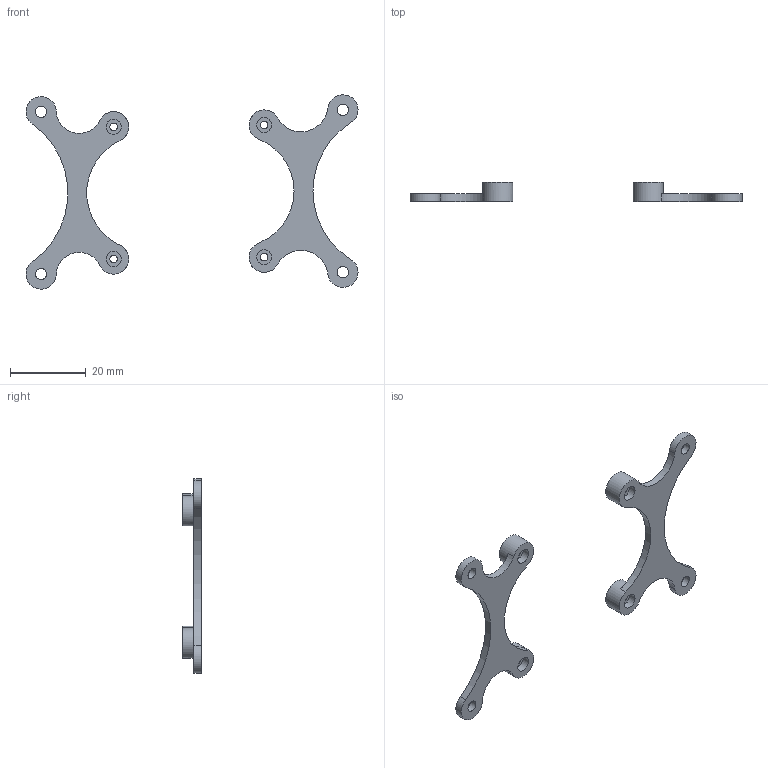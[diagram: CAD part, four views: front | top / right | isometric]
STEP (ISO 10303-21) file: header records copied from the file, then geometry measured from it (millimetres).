
FILE_DESCRIPTION(/* description */ ('STEP AP242','CAx-IF Rec.Pracs.---Representation and Presentation of Product Manufacturing Information (PMI)---4.0---2014-10-13','CAx-IF Rec.Pracs.---3D Tessellated Geometry---0.4---2014-09-14','2;1'),/* implementation_level */ '2;1');
FILE_NAME(/* name */ '67b613ebc5fed027b9f91b6a',/* time_stamp */ '2025-02-19T17:25:00Z',/* author */ (''),/* organization */ (''),/* preprocessor_version */ 'ST-DEVELOPER v20',/* originating_system */ 'ONSHAPE BY PTC INC, 1.193',/* authorisation */ ' ');
FILE_SCHEMA (('AP242_MANAGED_MODEL_BASED_3D_ENGINEERING_MIM_LF { 1 0 10303 442 1 1 4 }'));
Length unit declared in the file: metre
Products named in the file (2): Part 1; Part 2
Bounding box: 87.92 x 5 x 51.47 mm (x, y, z)
Volume: 2649.1 mm3; surface area: 3413.1 mm2
Topology: 2 solids, 2 shells, 40 faces, 98 edges, 66 vertices
Faces by surface type: cylinder 28, plane 12
Full cylindrical faces by diameter (mm): 2 x4, 3 x4, 4 x4, 8 x4
Entity records: 1164 total; most frequent: DIRECTION 220, CARTESIAN_POINT 178, ORIENTED_EDGE 152, AXIS2_PLACEMENT_3D 102, EDGE_CURVE 76, EDGE_LOOP 76, FACE_BOUND 76, VERTEX_POINT 60
